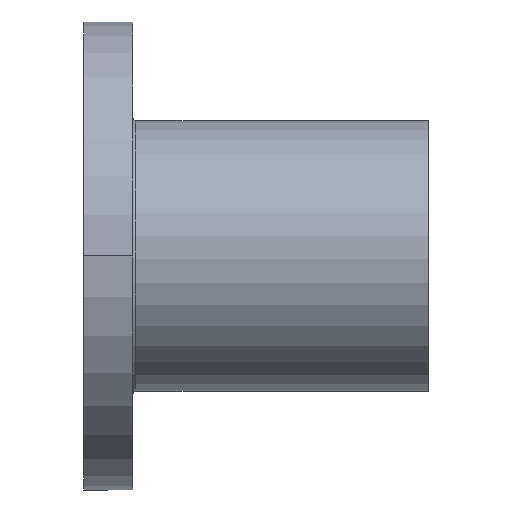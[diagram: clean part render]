
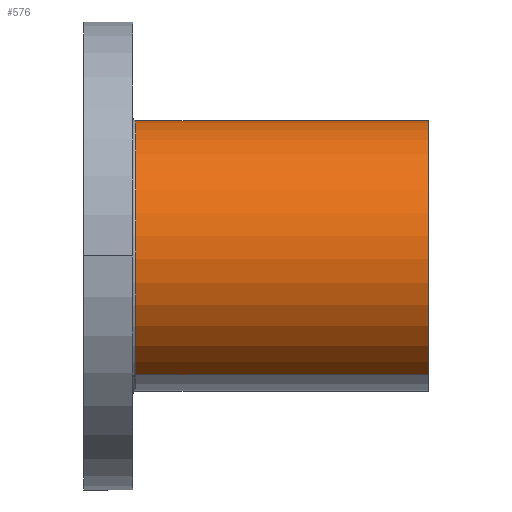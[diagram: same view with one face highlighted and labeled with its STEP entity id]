
A CAD part, front view. The second image highlights one B-rep face of the part: STEP entity #576.
In plain terms, the highlighted cylindrical face has radius 22 mm (diameter 44 mm), a partial arc.
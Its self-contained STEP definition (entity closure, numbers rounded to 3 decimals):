
#143=CARTESIAN_POINT('Axis2P3D Location',(56.,0.,0.)) ;
#147=CARTESIAN_POINT('Vertex',(56.,10.547,19.307)) ;
#149=CARTESIAN_POINT('Vertex',(56.,-10.547,-19.307)) ;
#546=CARTESIAN_POINT('Axis2P3D Location',(51.092,0.,0.)) ;
#551=CARTESIAN_POINT('Line Origine',(51.092,-10.547,-19.307)) ;
#555=CARTESIAN_POINT('Vertex',(8.5,-10.547,-19.307)) ;
#558=CARTESIAN_POINT('Line Origine',(51.092,10.547,19.307)) ;
#562=CARTESIAN_POINT('Vertex',(8.5,10.547,19.307)) ;
#565=CARTESIAN_POINT('Axis2P3D Location',(8.5,0.,0.)) ;
#144=DIRECTION('Axis2P3D Direction',(1.,0.,0.)) ;
#547=DIRECTION('Axis2P3D Direction',(-1.,0.,0.)) ;
#548=DIRECTION('Axis2P3D XDirection',(0.,-0.479,-0.878)) ;
#552=DIRECTION('Vector Direction',(-1.,0.,0.)) ;
#559=DIRECTION('Vector Direction',(-1.,0.,0.)) ;
#566=DIRECTION('Axis2P3D Direction',(-1.,0.,0.)) ;
#145=AXIS2_PLACEMENT_3D('Circle Axis2P3D',#143,#144,$) ;
#549=AXIS2_PLACEMENT_3D('Cylinder Axis2P3D',#546,#547,#548) ;
#567=AXIS2_PLACEMENT_3D('Circle Axis2P3D',#565,#566,$) ;
#571=ORIENTED_EDGE('',*,*,#557,.F.) ;
#572=ORIENTED_EDGE('',*,*,#151,.F.) ;
#573=ORIENTED_EDGE('',*,*,#564,.T.) ;
#574=ORIENTED_EDGE('',*,*,#569,.T.) ;
#553=VECTOR('Line Direction',#552,1.) ;
#560=VECTOR('Line Direction',#559,1.) ;
#576=ADVANCED_FACE('CTM28',(#575),#550,.T.) ;
#146=CIRCLE('generated circle',#145,22.) ;
#568=CIRCLE('generated circle',#567,22.) ;
#550=CYLINDRICAL_SURFACE('generated cylinder',#549,22.) ;
#151=EDGE_CURVE('',#148,#150,#146,.T.) ;
#557=EDGE_CURVE('',#150,#556,#554,.T.) ;
#564=EDGE_CURVE('',#148,#563,#561,.T.) ;
#569=EDGE_CURVE('',#563,#556,#568,.F.) ;
#570=EDGE_LOOP('',(#571,#572,#573,#574)) ;
#575=FACE_OUTER_BOUND('',#570,.T.) ;
#554=LINE('Line',#551,#553) ;
#561=LINE('Line',#558,#560) ;
#148=VERTEX_POINT('',#147) ;
#150=VERTEX_POINT('',#149) ;
#556=VERTEX_POINT('',#555) ;
#563=VERTEX_POINT('',#562) ;
